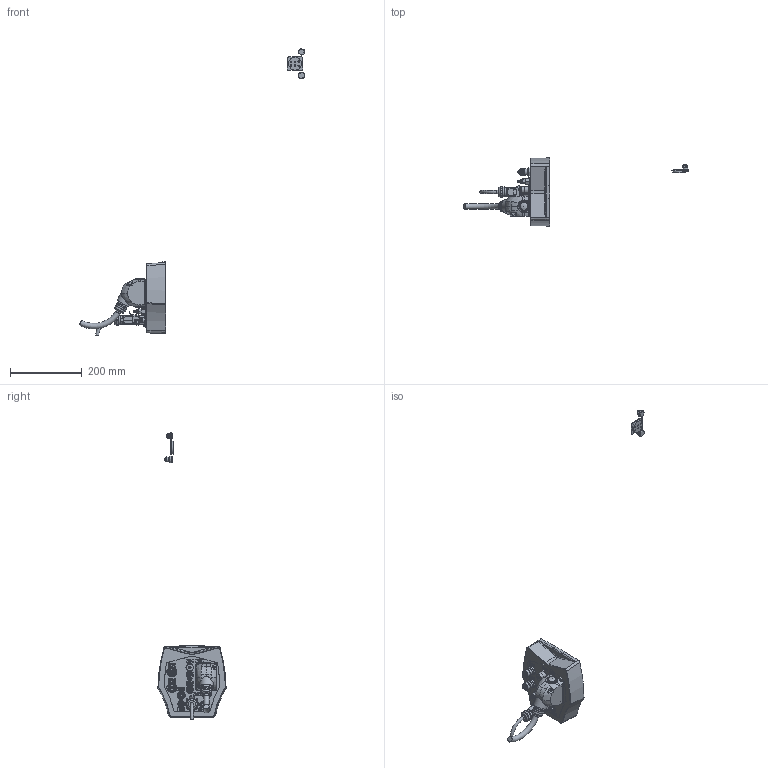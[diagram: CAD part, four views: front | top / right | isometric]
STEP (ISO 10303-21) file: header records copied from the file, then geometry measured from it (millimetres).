
FILE_DESCRIPTION(/* description */ (''),/* implementation_level */ '2;1');
FILE_NAME(/* name */ 'KR_6_R700-2_AIR_CTR_GIG_V01.stp',/* time_stamp */ '2018-02-12T11:14:27+01:00',/* author */ (''),/* organization */ (''),/* preprocessor_version */ 'ST-DEVELOPER v15',/* originating_system */ 'SIEMENS PLM Software NX 9.0',/* authorisation */ '');
FILE_SCHEMA (('AUTOMOTIVE_DESIGN { 1 0 10303 214 3 1 1 1 }'));
Products named in the file (1): grae193045AE0ytg
Bounding box: 629.41 x 189.98 x 801 mm (x, y, z)
Volume: 2091262 mm3; surface area: 219005.6 mm2
Topology: 34 solids, 40 shells, 2258 faces, 5807 edges, 3854 vertices
Faces by surface type: plane 1246, extrusion 500, cylinder 367, bspline 79, cone 42, torus 18, sphere 6
Full cylindrical faces by diameter (mm): 2 x2, 2.5 x1, 3 x6, 3.2 x2, 3.3 x1, 3.4 x4, 3.8 x1, 4 x2, 4.2 x12, 4.8 x3, 5 x7, 5.5 x2, 6 x6, 6.9 x4, 7 x3, 8 x11, 8.06 x1, 8.2 x2, 8.7 x2, 8.8 x1, 9 x1, 9.7 x3, 11 x6, 11.8 x1, 12 x2, 13 x1, 13.3 x1, 13.4 x2, 14 x3, 14.4 x1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
Entity records: 77949 total; most frequent: CARTESIAN_POINT 27416, ORIENTED_EDGE 11172, DIRECTION 8182, EDGE_CURVE 5586, VERTEX_POINT 3778, VECTOR 3160, LINE 2660, EDGE_LOOP 2660
